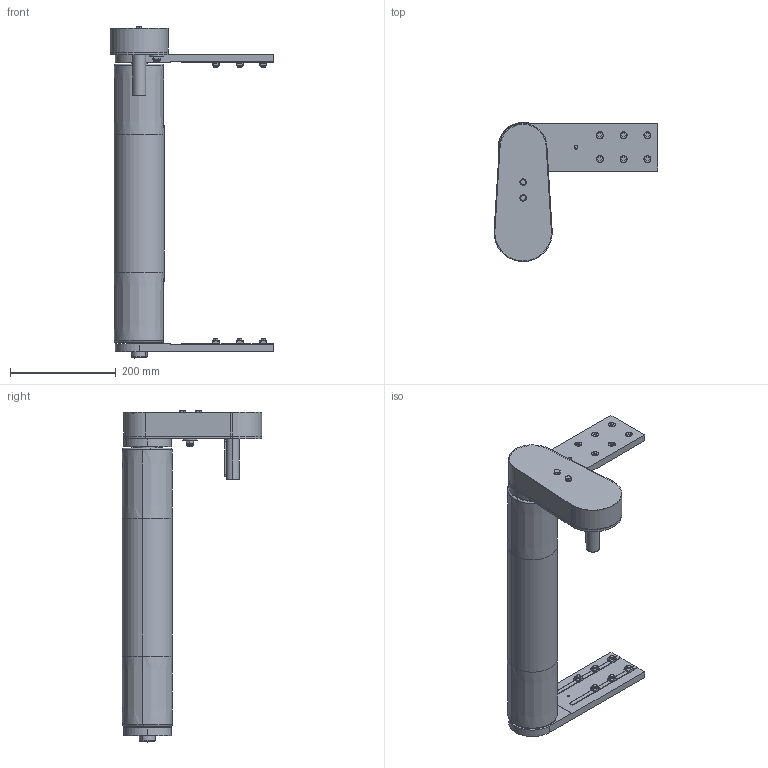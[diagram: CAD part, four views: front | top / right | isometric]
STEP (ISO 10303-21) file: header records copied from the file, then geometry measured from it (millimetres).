
FILE_DESCRIPTION (( 'STEP AP203' ), '1' );
FILE_NAME ('084.095.KTB.49.500.step', '2013-02-28T12:02:30', ( '' ), ( '' ), 'SwSTEP 2.0', 'SolidWorks 2011', '' );
FILE_SCHEMA (( 'CONFIG_CONTROL_DESIGN' ));
Length unit declared in the file: millimetre
Products named in the file (28): 084.095.KTB.49.500; Hex Screw GradeC_ALUSIC_ISO 4018 - M8 x 20-NS; Hex Screw GradeC_ALUSIC_ISO 4018 - M6 x 50-NS; ANELLI ELASTICI PER ESTERNI UNI 7435-75_Circlip DIN 471 - 30 x 1.5; CHIAVETTE_A 8x7x25 UNI 6604-69; CHIAVETTE_A 8x7x70 UNI 6604-69; Specchiatura084.302.000 DADI ALUSIC 13x13_084.302.004; 084.301.000 VITI ALUSIC_084.301.003; 084.302.000 DADI ALUSIC 13x13_084.302.004; 084.821.003; 084.810.006; Circlip for Shafts normal_din_Circlip DIN 471 - 8 x 0.8; Plain Washer XLarge Grade C_ALUSIC_Washer ISO 7094 - 8; Torque nut 01_ALUSIC_ISO 7040-M8-S; CUSCINETTI A SFERE_608-2RS; 084.810.008; 084.816.108_084.816.108; 084.813.005; 084.809.002; 084.821.002; 084.809.003; 084.813.002; 084.812.003; 084.802.019_084.802.019; 084.802.034_084.802.034; 084.808.002_084.808.002; 084.810.003; 084.808.003_084.808.003
Assembly tree (59 placements, depth 3):
  084.095.KTB.49.500
    084.808.003_084.808.003
    ANELLI ELASTICI PER ESTERNI UNI 7435-75_Circlip DIN 471 - 30 x 1.5  x2
    CHIAVETTE_A 8x7x25 UNI 6604-69  x3
    Specchiatura084.302.000 DADI ALUSIC 13x13_084.302.004  x6
    Hex Screw GradeC_ALUSIC_ISO 4018 - M8 x 20-NS  x4
    CHIAVETTE_A 8x7x70 UNI 6604-69
    084.302.000 DADI ALUSIC 13x13_084.302.004  x6
    Hex Screw GradeC_ALUSIC_ISO 4018 - M6 x 50-NS  x2
    084.301.000 VITI ALUSIC_084.301.003  x12
    084.813.005
    084.821.002  x2
    084.802.019_084.802.019
    084.821.003
    084.809.002
    084.812.003
    084.813.002
    084.810.006
      CUSCINETTI A SFERE_608-2RS  x3
      Plain Washer XLarge Grade C_ALUSIC_Washer ISO 7094 - 8
      Circlip for Shafts normal_din_Circlip DIN 471 - 8 x 0.8
      084.810.008
      Torque nut 01_ALUSIC_ISO 7040-M8-S
    084.802.034_084.802.034
    084.810.003  x2
    084.809.003
    084.808.002_084.808.002
    084.816.108_084.816.108
Bounding box: 310 x 263.99 x 627.88 mm (x, y, z)
Volume: 2226366 mm3; surface area: 991060.1 mm2
Topology: 63 solids, 64 shells, 2827 faces, 7309 edges, 4678 vertices
Faces by surface type: cylinder 1022, plane 857, cone 817, torus 122, sphere 9
Entity records: 54510 total; most frequent: CARTESIAN_POINT 9764, DIRECTION 9204, ORIENTED_EDGE 8304, EDGE_CURVE 4152, AXIS2_PLACEMENT_3D 3521, VERTEX_POINT 2673, LINE 2162, VECTOR 2162
